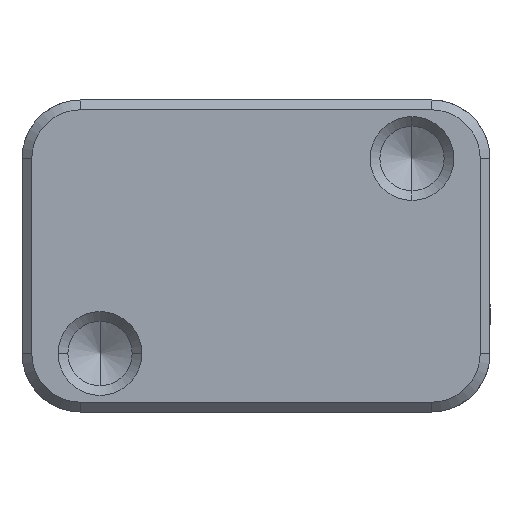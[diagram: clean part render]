
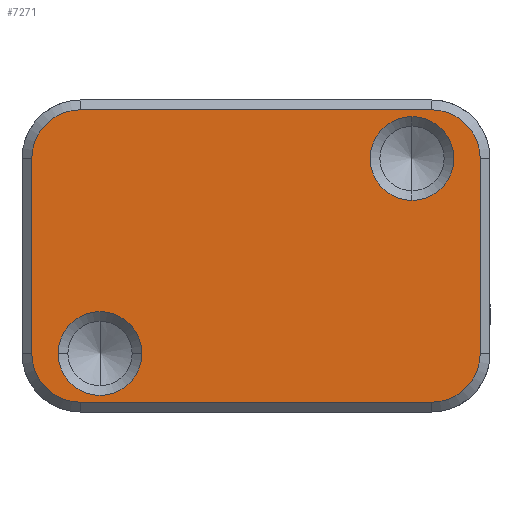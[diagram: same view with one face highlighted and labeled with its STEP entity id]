
A CAD part, front view. The second image highlights one B-rep face of the part: STEP entity #7271.
In plain terms, the highlighted planar face has unit normal (0, -1, 0).
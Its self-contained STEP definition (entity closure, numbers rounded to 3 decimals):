
#10 = EDGE_CURVE ( 'NONE', #719, #5382, #6317, .T. ) ;
#56 = ORIENTED_EDGE ( 'NONE', *, *, #7593, .T. ) ;
#264 = VERTEX_POINT ( 'NONE', #9909 ) ;
#268 = EDGE_CURVE ( 'NONE', #11205, #9197, #5644, .T. ) ;
#340 = ORIENTED_EDGE ( 'NONE', *, *, #3508, .F. ) ;
#398 = AXIS2_PLACEMENT_3D ( 'NONE', #8077, #6109, #2202 ) ;
#421 = AXIS2_PLACEMENT_3D ( 'NONE', #3086, #4901, #9103 ) ;
#432 = EDGE_CURVE ( 'NONE', #9070, #264, #6834, .T. ) ;
#648 = DIRECTION ( 'NONE',  ( 0., 0., 1. ) ) ;
#719 = VERTEX_POINT ( 'NONE', #9707 ) ;
#756 = DIRECTION ( 'NONE',  ( 0., 0., 1. ) ) ;
#1089 = CARTESIAN_POINT ( 'NONE',  ( -10.15, 0., -5. ) ) ;
#1221 = ORIENTED_EDGE ( 'NONE', *, *, #268, .T. ) ;
#1378 = DIRECTION ( 'NONE',  ( -1., 0., 0. ) ) ;
#1606 = ORIENTED_EDGE ( 'NONE', *, *, #10, .F. ) ;
#1676 = CARTESIAN_POINT ( 'NONE',  ( -12., 0., 7.5 ) ) ;
#1842 = DIRECTION ( 'NONE',  ( 0., 0., 1. ) ) ;
#2202 = DIRECTION ( 'NONE',  ( 0., 0., -1. ) ) ;
#2272 = DIRECTION ( 'NONE',  ( 0., 1., 0. ) ) ;
#2385 = EDGE_CURVE ( 'NONE', #11732, #7236, #4668, .T. ) ;
#2504 = VERTEX_POINT ( 'NONE', #1089 ) ;
#2542 = FACE_BOUND ( 'NONE', #10026, .T. ) ;
#2554 = CARTESIAN_POINT ( 'NONE',  ( -9., 0., 5. ) ) ;
#2704 = EDGE_CURVE ( 'NONE', #5382, #9197, #12533, .T. ) ;
#2927 = AXIS2_PLACEMENT_3D ( 'NONE', #12691, #12757, #8745 ) ;
#3086 = CARTESIAN_POINT ( 'NONE',  ( -9., 0., -5. ) ) ;
#3204 = ORIENTED_EDGE ( 'NONE', *, *, #2704, .F. ) ;
#3232 = CIRCLE ( 'NONE', #11186, 2.15 ) ;
#3402 = ORIENTED_EDGE ( 'NONE', *, *, #10671, .T. ) ;
#3452 = FACE_OUTER_BOUND ( 'NONE', #9743, .T. ) ;
#3508 = EDGE_CURVE ( 'NONE', #7285, #719, #4286, .T. ) ;
#3513 = AXIS2_PLACEMENT_3D ( 'NONE', #4567, #4502, #7502 ) ;
#3674 = CARTESIAN_POINT ( 'NONE',  ( 11.5, 0., 5. ) ) ;
#3886 = CARTESIAN_POINT ( 'NONE',  ( 8., 0., 5. ) ) ;
#3979 = EDGE_CURVE ( 'NONE', #264, #9070, #3232, .T. ) ;
#4149 = AXIS2_PLACEMENT_3D ( 'NONE', #7749, #11818, #648 ) ;
#4190 = CARTESIAN_POINT ( 'NONE',  ( -9., 0., 7.5 ) ) ;
#4286 = CIRCLE ( 'NONE', #7403, 2.5 ) ;
#4483 = CARTESIAN_POINT ( 'NONE',  ( -5.85, 0., -5. ) ) ;
#4502 = DIRECTION ( 'NONE',  ( 0., -1., 0. ) ) ;
#4567 = CARTESIAN_POINT ( 'NONE',  ( -12., 0., -8. ) ) ;
#4598 = DIRECTION ( 'NONE',  ( 0., 1., 0. ) ) ;
#4668 = LINE ( 'NONE', #1676, #6229 ) ;
#4744 = CIRCLE ( 'NONE', #12499, 2.5 ) ;
#4901 = DIRECTION ( 'NONE',  ( 0., 1., 0. ) ) ;
#5039 = CARTESIAN_POINT ( 'NONE',  ( 8., 0., 7.15 ) ) ;
#5382 = VERTEX_POINT ( 'NONE', #8923 ) ;
#5386 = CIRCLE ( 'NONE', #4149, 2.5 ) ;
#5509 = EDGE_CURVE ( 'NONE', #7285, #9035, #10311, .T. ) ;
#5644 = LINE ( 'NONE', #10759, #7265 ) ;
#6109 = DIRECTION ( 'NONE',  ( 0., 1., 0. ) ) ;
#6229 = VECTOR ( 'NONE', #8848, 1000. ) ;
#6242 = DIRECTION ( 'NONE',  ( 1., 0., 0. ) ) ;
#6317 = LINE ( 'NONE', #9155, #8519 ) ;
#6334 = CARTESIAN_POINT ( 'NONE',  ( -11.5, 0., -5. ) ) ;
#6657 = ORIENTED_EDGE ( 'NONE', *, *, #7664, .T. ) ;
#6717 = ORIENTED_EDGE ( 'NONE', *, *, #9441, .T. ) ;
#6834 = CIRCLE ( 'NONE', #398, 2.15 ) ;
#7236 = VERTEX_POINT ( 'NONE', #4190 ) ;
#7265 = VECTOR ( 'NONE', #9720, 1000. ) ;
#7271 = ADVANCED_FACE ( 'NONE', ( #3452, #9415, #2542 ), #12569, .T. ) ;
#7285 = VERTEX_POINT ( 'NONE', #12440 ) ;
#7403 = AXIS2_PLACEMENT_3D ( 'NONE', #10689, #4598, #756 ) ;
#7502 = DIRECTION ( 'NONE',  ( 0., 0., -1. ) ) ;
#7593 = EDGE_CURVE ( 'NONE', #2504, #12696, #8523, .T. ) ;
#7664 = EDGE_CURVE ( 'NONE', #9035, #11732, #5386, .T. ) ;
#7749 = CARTESIAN_POINT ( 'NONE',  ( 9., 0., 5. ) ) ;
#7864 = DIRECTION ( 'NONE',  ( 0., 1., 0. ) ) ;
#7884 = AXIS2_PLACEMENT_3D ( 'NONE', #11375, #2272, #6242 ) ;
#8077 = CARTESIAN_POINT ( 'NONE',  ( 8., 0., 5. ) ) ;
#8519 = VECTOR ( 'NONE', #1378, 1000. ) ;
#8523 = CIRCLE ( 'NONE', #7884, 2.15 ) ;
#8745 = DIRECTION ( 'NONE',  ( 1., 0., 0. ) ) ;
#8848 = DIRECTION ( 'NONE',  ( -1., 0., 0. ) ) ;
#8917 = VECTOR ( 'NONE', #9322, 1000. ) ;
#8923 = CARTESIAN_POINT ( 'NONE',  ( -9., 0., -7.5 ) ) ;
#9035 = VERTEX_POINT ( 'NONE', #3674 ) ;
#9070 = VERTEX_POINT ( 'NONE', #5039 ) ;
#9103 = DIRECTION ( 'NONE',  ( 0., 0., 1. ) ) ;
#9155 = CARTESIAN_POINT ( 'NONE',  ( -12., 0., -7.5 ) ) ;
#9197 = VERTEX_POINT ( 'NONE', #6334 ) ;
#9322 = DIRECTION ( 'NONE',  ( 0., 0., 1. ) ) ;
#9415 = FACE_BOUND ( 'NONE', #11376, .T. ) ;
#9441 = EDGE_CURVE ( 'NONE', #7236, #11205, #4744, .T. ) ;
#9707 = CARTESIAN_POINT ( 'NONE',  ( 9., 0., -7.5 ) ) ;
#9720 = DIRECTION ( 'NONE',  ( 0., 0., -1. ) ) ;
#9743 = EDGE_LOOP ( 'NONE', ( #340, #11254, #6657, #11270, #6717, #1221, #3204, #1606 ) ) ;
#9824 = CIRCLE ( 'NONE', #2927, 2.15 ) ;
#9909 = CARTESIAN_POINT ( 'NONE',  ( 8., 0., 2.85 ) ) ;
#10026 = EDGE_LOOP ( 'NONE', ( #12337, #12842 ) ) ;
#10237 = CARTESIAN_POINT ( 'NONE',  ( -11.5, 0., 5. ) ) ;
#10311 = LINE ( 'NONE', #11297, #8917 ) ;
#10671 = EDGE_CURVE ( 'NONE', #12696, #2504, #9824, .T. ) ;
#10689 = CARTESIAN_POINT ( 'NONE',  ( 9., 0., -5. ) ) ;
#10759 = CARTESIAN_POINT ( 'NONE',  ( -11.5, 0., -8. ) ) ;
#10855 = CARTESIAN_POINT ( 'NONE',  ( 9., 0., 7.5 ) ) ;
#11186 = AXIS2_PLACEMENT_3D ( 'NONE', #3886, #7864, #11882 ) ;
#11205 = VERTEX_POINT ( 'NONE', #10237 ) ;
#11254 = ORIENTED_EDGE ( 'NONE', *, *, #5509, .T. ) ;
#11270 = ORIENTED_EDGE ( 'NONE', *, *, #2385, .T. ) ;
#11297 = CARTESIAN_POINT ( 'NONE',  ( 11.5, 0., -8. ) ) ;
#11375 = CARTESIAN_POINT ( 'NONE',  ( -8., 0., -5. ) ) ;
#11376 = EDGE_LOOP ( 'NONE', ( #3402, #56 ) ) ;
#11732 = VERTEX_POINT ( 'NONE', #10855 ) ;
#11818 = DIRECTION ( 'NONE',  ( 0., -1., 0. ) ) ;
#11882 = DIRECTION ( 'NONE',  ( 0., 0., -1. ) ) ;
#12337 = ORIENTED_EDGE ( 'NONE', *, *, #3979, .T. ) ;
#12440 = CARTESIAN_POINT ( 'NONE',  ( 11.5, 0., -5. ) ) ;
#12499 = AXIS2_PLACEMENT_3D ( 'NONE', #2554, #12582, #1842 ) ;
#12533 = CIRCLE ( 'NONE', #421, 2.5 ) ;
#12569 = PLANE ( 'NONE',  #3513 ) ;
#12582 = DIRECTION ( 'NONE',  ( 0., -1., 0. ) ) ;
#12691 = CARTESIAN_POINT ( 'NONE',  ( -8., 0., -5. ) ) ;
#12696 = VERTEX_POINT ( 'NONE', #4483 ) ;
#12757 = DIRECTION ( 'NONE',  ( 0., 1., 0. ) ) ;
#12842 = ORIENTED_EDGE ( 'NONE', *, *, #432, .T. ) ;
